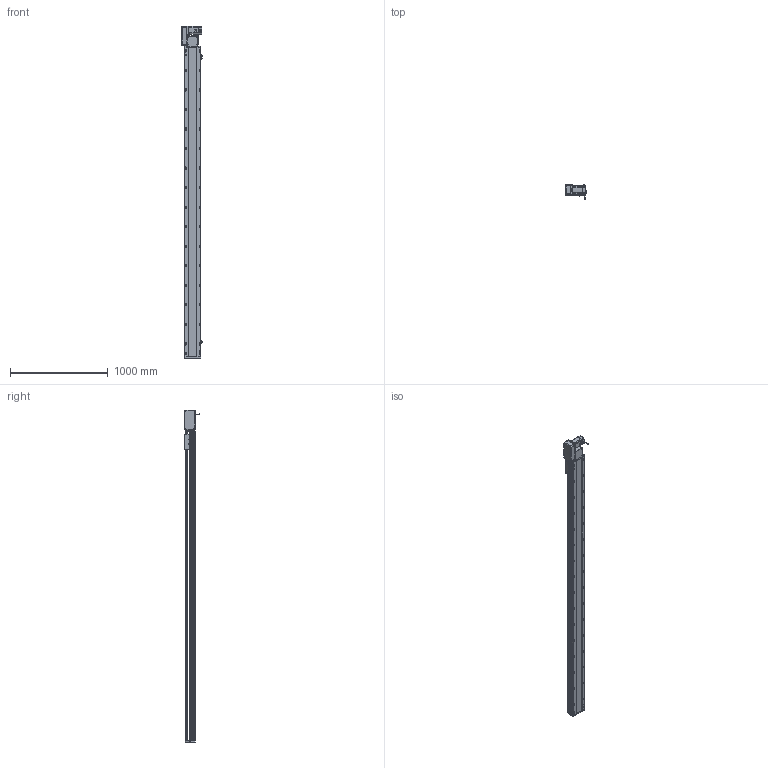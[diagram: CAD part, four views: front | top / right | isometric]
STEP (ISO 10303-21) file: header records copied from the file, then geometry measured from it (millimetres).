
FILE_DESCRIPTION (( 'STEP AP214' ), '1' );
FILE_NAME ('RTB17S-XX-2900-L-M75-C4.STEP', '2025-12-12T00:24:19', ( '' ), ( '' ), 'SwSTEP 2.0', 'SolidWorks 2018', '' );
FILE_SCHEMA (( 'AUTOMOTIVE_DESIGN' ));
Length unit declared in the file: millimetre
Products named in the file (15): RTB22S-GY-017P^RTB17S-L-々湍釱蚾饜-750W_RTB17S-XX-XX-L-M75-C4; RTB17-R-011菁釱^RTB17S-XX-XX-L-M75-C4; RTB17S-L-007奻裔^RTB17S-XX-XX-L-M75-C4; RTB22S-GY-018P^RTB17S-L-々湍釱蚾饜-750W_RTB17S-XX-XX-L-M75-C4; RTB17S-賑釱^RTB17S-XX-XX-L-M75-C4; 750W萇儂^RTB17S-XX-XX-L-M75-C4; RMP17S-L-014-T20-P75--々湍釱^RTB17S-L-々湍釱蚾饜-750W_RTB17S-XX-XX-L-M75-C4; RTB17S-L-001-耜醱啣^RTB17S-XX-XX-L-M75-C4; RTH13-BL-012覜茼え俋离^RTB17S-賑釱_RTB17S-XX-XX-L-M75-C4; EE672^RTB17S-XX-XX-L-M75-C4; RTB17S-L-004-賑釱^RTB17S-賑釱_RTB17S-XX-XX-L-M75-C4; RTB17S-L-々湍釱蚾饜-750W^RTB17S-XX-XX-L-M75-C4; RTB22S-GY-008-M75--萇儂啣^RTB17S-L-々湍釱蚾饜-750W_RTB17S-XX-XX-L-M75-C4; RTB22S-GY-005P^RTB17S-L-々湍釱蚾饜-750W_RTB17S-XX-XX-L-M75-C4; RTB17S-XX-2900-L-M75-C4
Assembly tree (17 placements, depth 3):
  RTB17S-XX-2900-L-M75-C4
    RTB17-R-011菁釱^RTB17S-XX-XX-L-M75-C4
    EE672^RTB17S-XX-XX-L-M75-C4  x3
    RTB17S-L-001-耜醱啣^RTB17S-XX-XX-L-M75-C4
    RTB17S-賑釱^RTB17S-XX-XX-L-M75-C4
      RTB17S-L-004-賑釱^RTB17S-賑釱_RTB17S-XX-XX-L-M75-C4
      RTH13-BL-012覜茼え俋离^RTB17S-賑釱_RTB17S-XX-XX-L-M75-C4
    RTB17S-L-007奻裔^RTB17S-XX-XX-L-M75-C4
    750W萇儂^RTB17S-XX-XX-L-M75-C4
    RTB17S-L-々湍釱蚾饜-750W^RTB17S-XX-XX-L-M75-C4
      RMP17S-L-014-T20-P75--々湍釱^RTB17S-L-々湍釱蚾饜-750W_RTB17S-XX-XX-L-M75-C4
      RTB22S-GY-005P^RTB17S-L-々湍釱蚾饜-750W_RTB17S-XX-XX-L-M75-C4
      RTB22S-GY-017P^RTB17S-L-々湍釱蚾饜-750W_RTB17S-XX-XX-L-M75-C4  x2
      RTB22S-GY-008-M75--萇儂啣^RTB17S-L-々湍釱蚾饜-750W_RTB17S-XX-XX-L-M75-C4
      RTB22S-GY-018P^RTB17S-L-々湍釱蚾饜-750W_RTB17S-XX-XX-L-M75-C4
Bounding box: 210.4 x 152.7 x 3399 mm (x, y, z)
Volume: 24075719.8 mm3; surface area: 4405643.9 mm2
Topology: 17 solids, 17 shells, 2249 faces, 6322 edges, 4094 vertices
Faces by surface type: plane 990, cylinder 843, bspline 294, cone 110, sphere 8, torus 4
Entity records: 65782 total; most frequent: CARTESIAN_POINT 19586, ORIENTED_EDGE 9488, DIRECTION 8762, EDGE_CURVE 4744, AXIS2_PLACEMENT_3D 3114, VERTEX_POINT 3098, LINE 2534, VECTOR 2534
